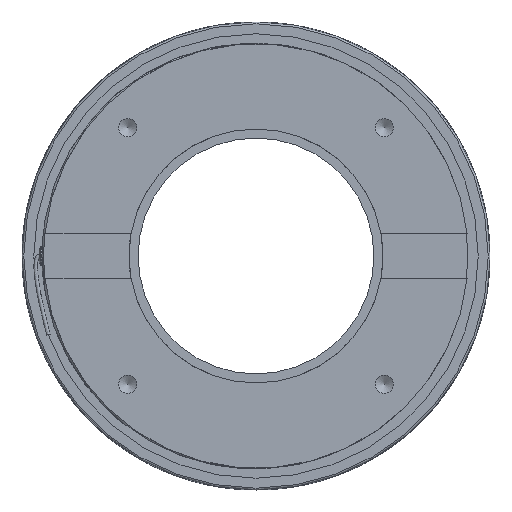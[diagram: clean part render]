
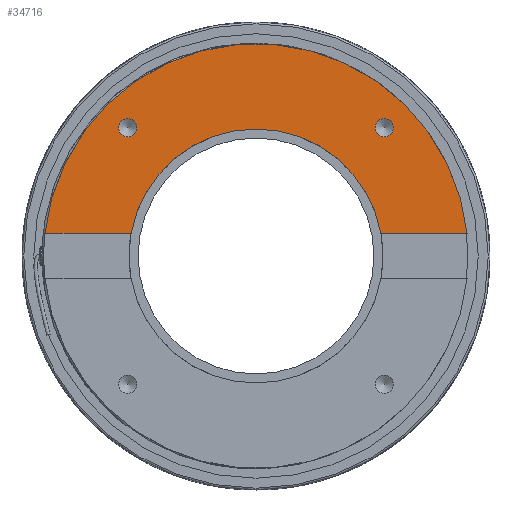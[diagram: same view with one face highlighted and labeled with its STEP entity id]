
A CAD part, left-side view. The second image highlights one B-rep face of the part: STEP entity #34716.
In plain terms, the highlighted planar face has unit normal (-1, 0, 0).
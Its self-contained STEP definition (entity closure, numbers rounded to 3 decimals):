
#2396=FACE_BOUND('',#4561,.T.);
#2397=FACE_BOUND('',#4562,.T.);
#2684=FACE_OUTER_BOUND('',#4560,.T.);
#4560=EDGE_LOOP('',(#20571,#20572,#20573,#20574));
#4561=EDGE_LOOP('',(#20575));
#4562=EDGE_LOOP('',(#20576));
#6537=CIRCLE('',#36620,117.);
#6547=CIRCLE('',#36639,70.);
#6548=CIRCLE('',#36640,5.053);
#6549=CIRCLE('',#36641,5.053);
#7557=LINE('',#54847,#9508);
#7565=LINE('',#54888,#9516);
#9508=VECTOR('',#41930,47.455);
#9516=VECTOR('',#41956,47.455);
#11498=VERTEX_POINT('',#54844);
#11499=VERTEX_POINT('',#54846);
#11502=VERTEX_POINT('',#54854);
#11509=VERTEX_POINT('',#54886);
#11518=VERTEX_POINT('',#54918);
#11519=VERTEX_POINT('',#54920);
#15112=EDGE_CURVE('',#11499,#11498,#7557,.T.);
#15117=EDGE_CURVE('',#11502,#11498,#6537,.T.);
#15126=EDGE_CURVE('',#11502,#11509,#7565,.T.);
#15141=EDGE_CURVE('',#11509,#11499,#6547,.T.);
#15142=EDGE_CURVE('',#11518,#11518,#6548,.T.);
#15143=EDGE_CURVE('',#11519,#11519,#6549,.T.);
#20571=ORIENTED_EDGE('',*,*,#15126,.T.);
#20572=ORIENTED_EDGE('',*,*,#15141,.T.);
#20573=ORIENTED_EDGE('',*,*,#15112,.T.);
#20574=ORIENTED_EDGE('',*,*,#15117,.F.);
#20575=ORIENTED_EDGE('',*,*,#15142,.T.);
#20576=ORIENTED_EDGE('',*,*,#15143,.T.);
#31083=PLANE('',#36638);
#34716=ADVANCED_FACE('',(#2684,#2396,#2397),#31083,.T.);
#36620=AXIS2_PLACEMENT_3D('',#54856,#41938,#41939);
#36638=AXIS2_PLACEMENT_3D('',#54916,#41987,#41988);
#36639=AXIS2_PLACEMENT_3D('',#54917,#41989,#41990);
#36640=AXIS2_PLACEMENT_3D('',#54919,#41991,#41992);
#36641=AXIS2_PLACEMENT_3D('',#54921,#41993,#41994);
#41930=DIRECTION('',(0.,-1.,0.));
#41938=DIRECTION('center_axis',(1.,0.,0.));
#41939=DIRECTION('ref_axis',(0.,0.,-1.));
#41956=DIRECTION('',(0.,-1.,0.));
#41987=DIRECTION('center_axis',(-1.,0.,0.));
#41988=DIRECTION('ref_axis',(0.,0.,1.));
#41989=DIRECTION('center_axis',(1.,0.,0.));
#41990=DIRECTION('ref_axis',(0.,0.,-1.));
#41991=DIRECTION('center_axis',(1.,0.,0.));
#41992=DIRECTION('ref_axis',(0.,0.,1.));
#41993=DIRECTION('center_axis',(1.,0.,0.));
#41994=DIRECTION('ref_axis',(0.,0.,1.));
#54844=CARTESIAN_POINT('',(6.679,-117.023,12.5));
#54846=CARTESIAN_POINT('',(6.679,-69.568,12.5));
#54847=CARTESIAN_POINT('',(6.679,116.307,12.5));
#54854=CARTESIAN_POINT('',(6.679,115.638,12.5));
#54856=CARTESIAN_POINT('Origin',(6.679,-0.693,0.));
#54886=CARTESIAN_POINT('',(6.679,68.182,12.5));
#54888=CARTESIAN_POINT('',(6.679,116.307,12.5));
#54916=CARTESIAN_POINT('Origin',(6.679,116.307,0.));
#54917=CARTESIAN_POINT('Origin',(6.679,-0.693,0.));
#54918=CARTESIAN_POINT('',(6.679,70.018,75.764));
#54919=CARTESIAN_POINT('Origin',(6.679,70.018,70.711));
#54920=CARTESIAN_POINT('',(6.679,-71.403,75.764));
#54921=CARTESIAN_POINT('Origin',(6.679,-71.403,70.711));
